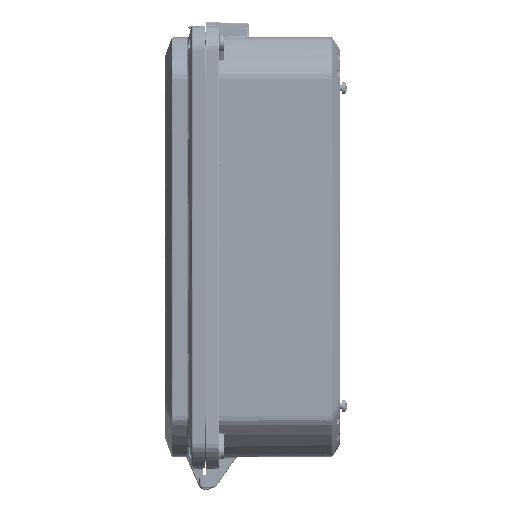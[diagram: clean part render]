
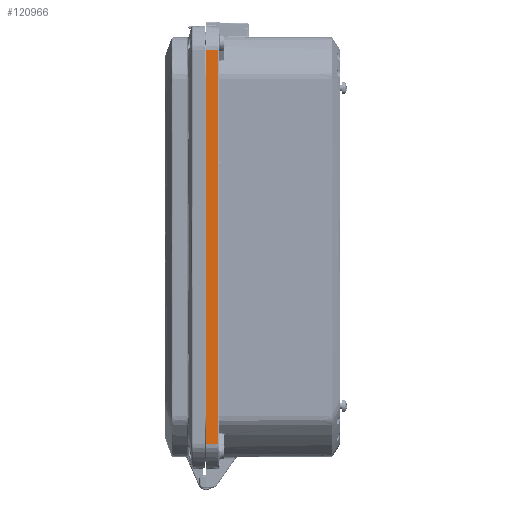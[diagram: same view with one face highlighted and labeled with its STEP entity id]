
A CAD part, left-side view. The second image highlights one B-rep face of the part: STEP entity #120966.
In plain terms, the highlighted planar face has unit normal (-0.999, -0.035, 0).
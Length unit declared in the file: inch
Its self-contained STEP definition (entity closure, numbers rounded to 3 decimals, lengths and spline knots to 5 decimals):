
#5678 = CARTESIAN_POINT ( 'NONE',  ( -7.60772, -0.35174, 5.89046 ) ) ;
#21363 = DIRECTION ( 'NONE',  ( -0.999, -0.035, 0. ) ) ;
#24790 = EDGE_CURVE ( 'NONE', #203074, #228100, #265595, .T. ) ;
#27720 = CARTESIAN_POINT ( 'NONE',  ( -7.62, 0., -5.89046 ) ) ;
#40840 = EDGE_LOOP ( 'NONE', ( #212083, #148362, #219707, #271457 ) ) ;
#63616 = LINE ( 'NONE', #107053, #129508 ) ;
#70687 = LINE ( 'NONE', #200830, #217799 ) ;
#86404 = VECTOR ( 'NONE', #152180, 39.37008 ) ;
#90573 = LINE ( 'NONE', #234930, #86404 ) ;
#102919 = DIRECTION ( 'NONE',  ( 0., 0., 1. ) ) ;
#104046 = CARTESIAN_POINT ( 'NONE',  ( -7.60772, -0.35174, -5.89046 ) ) ;
#106922 = DIRECTION ( 'NONE',  ( 0.035, -0.999, 0. ) ) ;
#107053 = CARTESIAN_POINT ( 'NONE',  ( -7.62, 0., 6.3 ) ) ;
#111332 = DIRECTION ( 'NONE',  ( 0., 0., 1. ) ) ;
#120966 = ADVANCED_FACE ( 'NONE', ( #276448 ), #127944, .T. ) ;
#124230 = EDGE_CURVE ( 'NONE', #178421, #260762, #90573, .T. ) ;
#127944 = PLANE ( 'NONE',  #153343 ) ;
#129508 = VECTOR ( 'NONE', #102919, 39.37008 ) ;
#148362 = ORIENTED_EDGE ( 'NONE', *, *, #124230, .F. ) ;
#148920 = CARTESIAN_POINT ( 'NONE',  ( -7.62, 0., 6.3 ) ) ;
#152180 = DIRECTION ( 'NONE',  ( 0.035, -0.999, 0. ) ) ;
#153343 = AXIS2_PLACEMENT_3D ( 'NONE', #148920, #21363, #106922 ) ;
#177356 = CARTESIAN_POINT ( 'NONE',  ( -7.62, 0., -5.89046 ) ) ;
#178421 = VERTEX_POINT ( 'NONE', #239171 ) ;
#192837 = EDGE_CURVE ( 'NONE', #203074, #178421, #63616, .T. ) ;
#199745 = DIRECTION ( 'NONE',  ( 0.035, -0.999, 0. ) ) ;
#200830 = CARTESIAN_POINT ( 'NONE',  ( -7.60772, -0.35174, 5.89046 ) ) ;
#203074 = VERTEX_POINT ( 'NONE', #27720 ) ;
#212083 = ORIENTED_EDGE ( 'NONE', *, *, #223081, .T. ) ;
#217799 = VECTOR ( 'NONE', #111332, 39.37008 ) ;
#219707 = ORIENTED_EDGE ( 'NONE', *, *, #192837, .F. ) ;
#223081 = EDGE_CURVE ( 'NONE', #228100, #260762, #70687, .T. ) ;
#228100 = VERTEX_POINT ( 'NONE', #104046 ) ;
#228139 = VECTOR ( 'NONE', #199745, 39.37008 ) ;
#234930 = CARTESIAN_POINT ( 'NONE',  ( -7.62, 0., 5.89046 ) ) ;
#239171 = CARTESIAN_POINT ( 'NONE',  ( -7.62, 0., 5.89046 ) ) ;
#260762 = VERTEX_POINT ( 'NONE', #5678 ) ;
#265595 = LINE ( 'NONE', #177356, #228139 ) ;
#271457 = ORIENTED_EDGE ( 'NONE', *, *, #24790, .T. ) ;
#276448 = FACE_OUTER_BOUND ( 'NONE', #40840, .T. ) ;
